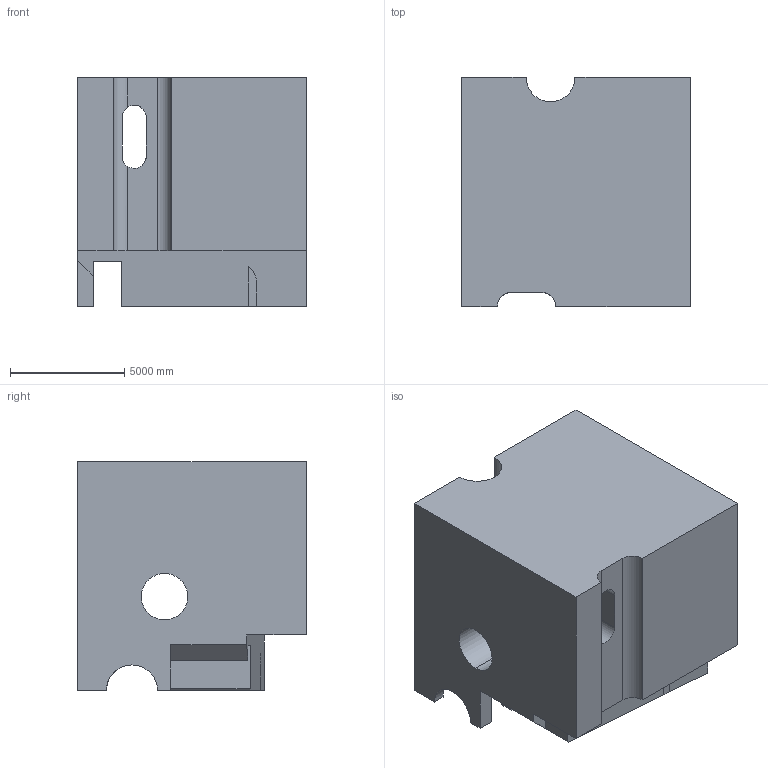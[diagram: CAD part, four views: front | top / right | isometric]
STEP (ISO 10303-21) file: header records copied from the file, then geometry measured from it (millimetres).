
FILE_DESCRIPTION (( 'STEP AP203' ), '1' );
FILE_NAME ('938.STEP', '2022-08-04T16:18:17', ( 'user' ), ( '' ), 'SwSTEP 2.0', 'SolidWorks 2021', '' );
FILE_SCHEMA (( 'CONFIG_CONTROL_DESIGN' ));
Length unit declared in the file: centimetre
Products named in the file (1): 938
Bounding box: 10000 x 10000 x 10000 mm (x, y, z)
Volume: 814125025368.5 mm3; surface area: 739261592.3 mm2
Topology: 1 solids, 1 shells, 41 faces, 123 edges, 82 vertices
Faces by surface type: plane 28, cylinder 13
Entity records: 1664 total; most frequent: CARTESIAN_POINT 454, ORIENTED_EDGE 246, DIRECTION 228, EDGE_CURVE 123, VECTOR 92, LINE 92, VERTEX_POINT 82, AXIS2_PLACEMENT_3D 68
